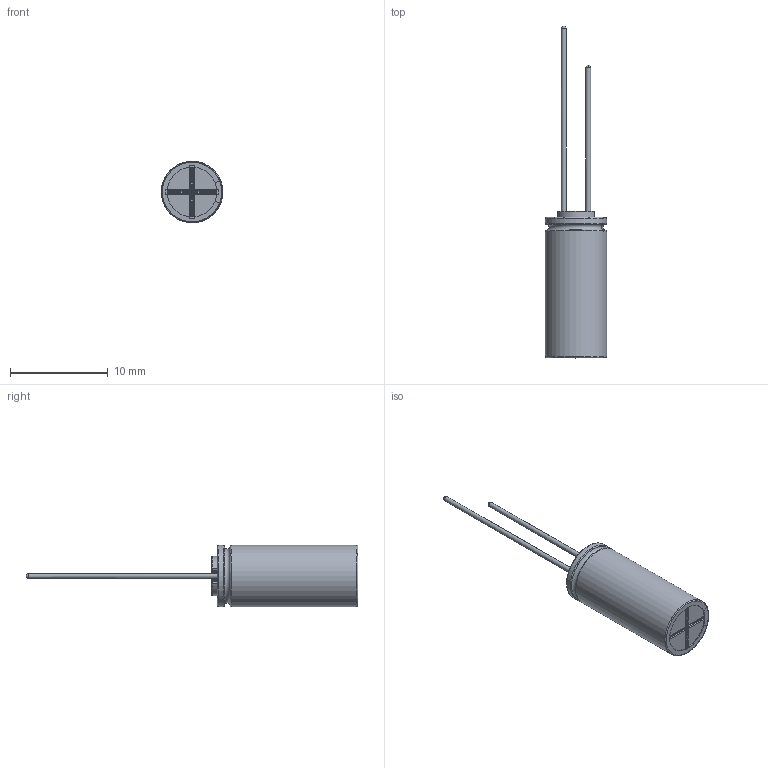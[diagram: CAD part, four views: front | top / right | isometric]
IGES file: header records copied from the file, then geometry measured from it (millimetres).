
Start section: JAMA-IS VERSION  1.0
Bounding box: 6.29 x 34 x 6.3 mm (x, y, z)
Surface area: 1025.7 mm2 (no closed solid volume)
Topology: 0 solids, 0 shells, 120 faces, 1287 edges, 1276 vertices
Faces by surface type: bspline 120
